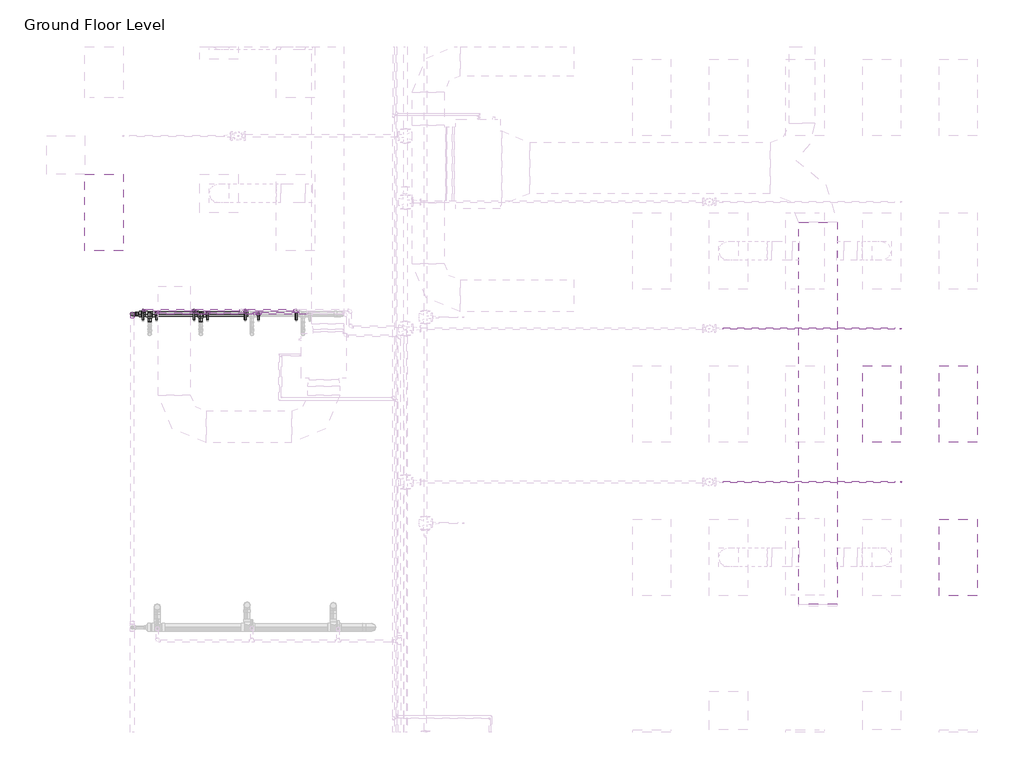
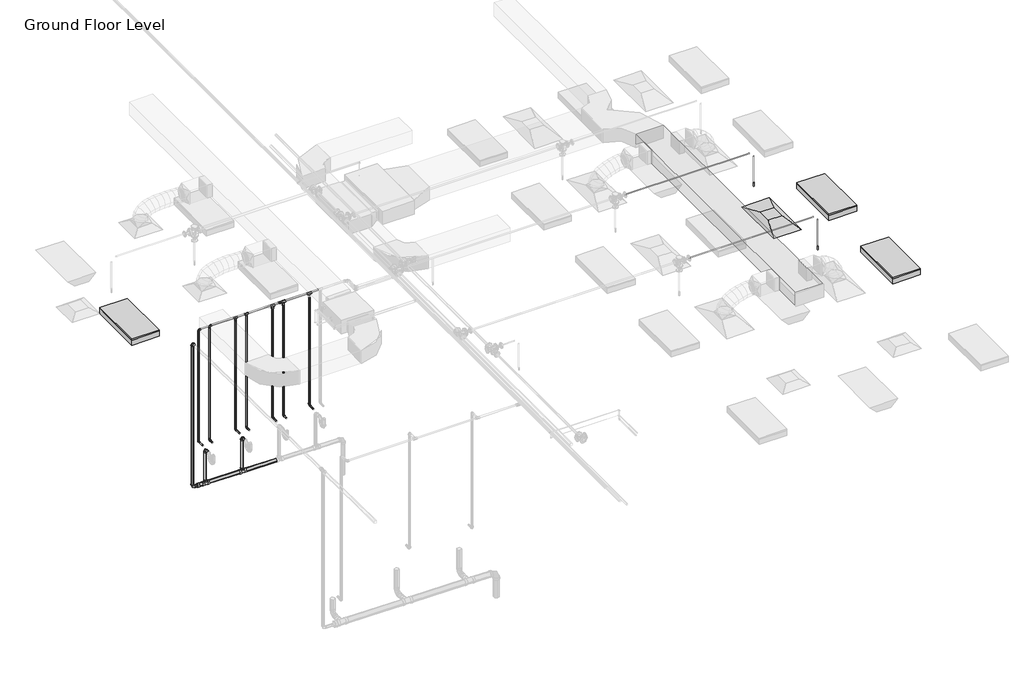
# One storey, part 24 of 75: 33 pipe segments, 24 pipe fittings, 3 light fixtures, 2 fire suppression terminals, 1 air terminal, 1 duct segment.
"""IFC4 building model written with IfcOpenShell, lengths in millimetres."""

from ifc_helpers import new_model, si_unit, point, frame, frame_2d, origin, place, context, project, spatial, polyline, circle_curve, trimmed, segment, composite_curve, outline, extrude, transform, mapped, element, save
from components import m_return_diffuser_1200x600_1200_x_600_face_300_x_300_d1983ef6, m_sprinkler_dry_pendent_hosted_15_mm_dry_pendent_9bda8e11, m_troffer_light_parabolic_rectangular1_0600x1200mm_4_lamp_86473d4a, m_bend_pvc_sch_40_dwv_standard_1e7bdcc1, m_bend_pvc_sch_40_dwv_standard_b3f66ba9, m_bend_pvc_sch_40_dwv_standard_8255d195, m_reducer_pvc_sch_40_dwv_standard_391ccf0e, m_tee_reducing_sanitary_pvc_sch_40_dwv_standard_21d2848c, standard_b266ab3f, standard_72b35c3b, standard_e954f56a, standard_636910a4

model = new_model("IFC4")

# Units and contexts
model_context = context("Model", 3, world=origin())
ifc_project = project(units=[si_unit("LENGTHUNIT", "METRE", prefix="MILLI")], contexts=[model_context])

# Site, building, storey
site = spatial("IfcSite", under=ifc_project)
building = spatial("IfcBuilding", under=site)
storey = spatial("IfcBuildingStorey", under=building, Name="Ground Floor Level", Elevation=900.0)

# Air terminal
placement = place(None, origin())
m_return_diffuser_1200x600_1200_x_600_face_300_x_300_shape = m_return_diffuser_1200x600_1200_x_600_face_300_x_300_d1983ef6(model_context)
element("IfcAirTerminal", 1, ObjectType="M_Return Diffuser 1200x600 : 1200 x 600 Face 300 x 300 Connection", at=placement, inside=storey, context=model_context, shape_type="MappedRepresentation", body=[
    mapped(m_return_diffuser_1200x600_1200_x_600_face_300_x_300_shape, transform((13143.0482736, -25264.7846466, 3650.0), x_axis=(0.0, 1.0, 0.0), y_axis=(-1.0, 0.0, 0.0), z_axis=(0.0, 0.0, 1.0))),
])

# Duct segment
element("IfcDuctSegment", 2, ObjectType="Radius Elbows / Taps", at=placement, inside=storey, context=model_context, shape_type="SweptSolid", body=[
    extrude(outline(polyline([(12447.7826463, -28403.2846466), (11847.7826463, -28403.2846466), (11847.7826463, -22416.5689179), (12447.7826463, -22416.5689179), (12447.7826463, -28403.2846466)])), frame((0.0, 0.0, 4000.0002153), z_axis=(0.0, 0.0, 1.0), x_axis=(1.0, 0.0, 0.0)), (0.0, 0.0, 1.0), 300.0),
])

# Fire suppression terminals
m_sprinkler_dry_pendent_hosted_15_mm_dry_pendent_shape = m_sprinkler_dry_pendent_hosted_15_mm_dry_pendent_9bda8e11(model_context)
element("IfcFireSuppressionTerminal", 3, ObjectType="M_Sprinkler - Dry - Pendent - Hosted : 15 mm Dry Pendent", at=placement, inside=storey, context=model_context, shape_type="MappedRepresentation", body=[
    mapped(m_sprinkler_dry_pendent_hosted_15_mm_dry_pendent_shape, transform((13443.0482736, -24083.6779349, 3650.0), x_axis=(1.0, 0.0, 0.0), y_axis=(0.0, -1.0, 0.0), z_axis=(0.0, 0.0, -1.0))),
])
element("IfcFireSuppressionTerminal", 4, ObjectType="M_Sprinkler - Dry - Pendent - Hosted : 15 mm Dry Pendent", at=placement, inside=storey, context=model_context, shape_type="MappedRepresentation", body=[
    mapped(m_sprinkler_dry_pendent_hosted_15_mm_dry_pendent_shape, transform((13443.0482736, -26484.6295433, 3650.0), x_axis=(1.0, 0.0, 0.0), y_axis=(0.0, -1.0, 0.0), z_axis=(0.0, 0.0, -1.0))),
])

# Light fixtures
m_troffer_light_parabolic_rectangular1_0600x1200mm_4_lamp_shape = m_troffer_light_parabolic_rectangular1_0600x1200mm_4_lamp_86473d4a(model_context)
element("IfcLightFixture", 5, ObjectType="M_Troffer Light - Parabolic Rectangular1 : 0600x1200mm(4 Lamp) - 277V 2", at=placement, inside=storey, context=model_context, shape_type="MappedRepresentation", body=[
    mapped(m_troffer_light_parabolic_rectangular1_0600x1200mm_4_lamp_shape, transform((903.3013074, -22246.081145, 3650.0), x_axis=(0.0, 1.0, 0.0), y_axis=(-1.0, 0.0, 0.0), z_axis=(0.0, 0.0, 1.0))),
])
element("IfcLightFixture", 6, ObjectType="M_Troffer Light - Parabolic Rectangular1 : 0600x1200mm(4 Lamp) - 277V 2", at=placement, inside=storey, context=model_context, shape_type="MappedRepresentation", body=[
    mapped(m_troffer_light_parabolic_rectangular1_0600x1200mm_4_lamp_shape, transform((14283.5823415, -25246.081145, 3650.0), x_axis=(0.0, 1.0, 0.0), y_axis=(-1.0, 0.0, 0.0), z_axis=(0.0, 0.0, 1.0))),
])
element("IfcLightFixture", 7, ObjectType="M_Troffer Light - Parabolic Rectangular1 : 0600x1200mm(4 Lamp) - 277V 2", at=placement, inside=storey, context=model_context, shape_type="MappedRepresentation", body=[
    mapped(m_troffer_light_parabolic_rectangular1_0600x1200mm_4_lamp_shape, transform((14283.5823415, -27646.081145, 3650.0), x_axis=(0.0, 1.0, 0.0), y_axis=(-1.0, 0.0, 0.0), z_axis=(0.0, 0.0, 1.0))),
])

# Pipe fittings
m_bend_pvc_sch_40_dwv_standard_shape = m_bend_pvc_sch_40_dwv_standard_1e7bdcc1(model_context)
element("IfcPipeFitting", 8, ObjectType="M_Bend - PVC - Sch 40 - DWV : Standard", at=placement, inside=storey, context=model_context, shape_type="MappedRepresentation", body=[
    mapped(m_bend_pvc_sch_40_dwv_standard_shape, transform((2478.7498, -23854.2948449, 1508.2594199), x_axis=(0.0, 0.9999500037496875, -0.00999950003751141), y_axis=(0.0, -0.00999950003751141, -0.9999500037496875), z_axis=(-1.0, 0.0, 0.0))),
])
element("IfcPipeFitting", 9, ObjectType="M_Bend - PVC - Sch 40 - DWV : Standard", at=placement, inside=storey, context=model_context, shape_type="MappedRepresentation", body=[
    mapped(m_bend_pvc_sch_40_dwv_standard_shape, transform((1404.8669708, -23854.2948449, 739.8083289), x_axis=(-0.9999500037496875, 0.0, 0.009999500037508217), y_axis=(0.009999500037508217, 0.0, 0.9999500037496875), z_axis=(0.0, 1.0, 0.0))),
])
m_bend_pvc_sch_40_dwv_standard_2_shape = m_bend_pvc_sch_40_dwv_standard_b3f66ba9(model_context)
element("IfcPipeFitting", 10, ObjectType="M_Bend - PVC - Sch 40 - DWV : Standard", at=placement, inside=storey, context=model_context, shape_type="MappedRepresentation", body=[
    mapped(m_bend_pvc_sch_40_dwv_standard_2_shape, transform((1678.7498, -23854.294392, 1508.3087469), x_axis=(0.0, 0.9999578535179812, -0.009181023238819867), y_axis=(0.0, -0.009181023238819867, -0.9999578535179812), z_axis=(-1.0, 0.0, 0.0))),
])
m_bend_pvc_sch_40_dwv_standard_3_shape = m_bend_pvc_sch_40_dwv_standard_8255d195(model_context)
element("IfcPipeFitting", 11, ObjectType="M_Bend - PVC - Sch 40 - DWV : Standard", at=placement, inside=storey, context=model_context, shape_type="MappedRepresentation", body=[
    mapped(m_bend_pvc_sch_40_dwv_standard_3_shape, transform((1404.8829692, -23854.3136394, 4037.9287036), x_axis=(0.0, 0.0, 1.0), y_axis=(0.0, -1.0, 0.0), z_axis=(1.0, 0.0, 0.0))),
])
m_reducer_pvc_sch_40_dwv_standard_shape = m_reducer_pvc_sch_40_dwv_standard_391ccf0e(model_context)
element("IfcPipeFitting", 12, ObjectType="M_Reducer - PVC - Sch 40 - DWV : Standard", at=placement, inside=storey, context=model_context, shape_type="MappedRepresentation", body=[
    mapped(m_reducer_pvc_sch_40_dwv_standard_shape, transform((1477.4242491, -23854.2948449, 739.0827561), x_axis=(0.9999500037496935, 0.0, -0.00999950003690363), y_axis=(0.0, 1.0, 0.0), z_axis=(0.00999950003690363, 0.0, 0.9999500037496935))),
])
m_tee_reducing_sanitary_pvc_sch_40_dwv_standard_shape = m_tee_reducing_sanitary_pvc_sch_40_dwv_standard_21d2848c(model_context)
element("IfcPipeFitting", 13, ObjectType="M_Tee Reducing Sanitary - PVC - Sch 40 - DWV : Standard", at=placement, inside=storey, context=model_context, shape_type="MappedRepresentation", body=[
    mapped(m_tee_reducing_sanitary_pvc_sch_40_dwv_standard_shape, transform((1678.7498, -23854.294392, 737.0632162), x_axis=(-0.9999500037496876, 0.0, 0.009999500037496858), y_axis=(-0.009999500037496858, 0.0, -0.9999500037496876), z_axis=(0.0, -1.0, 0.0))),
])
element("IfcPipeFitting", 14, ObjectType="M_Tee Reducing Sanitary - PVC - Sch 40 - DWV : Standard", at=placement, inside=storey, context=model_context, shape_type="MappedRepresentation", body=[
    mapped(m_tee_reducing_sanitary_pvc_sch_40_dwv_standard_shape, transform((2478.7498, -23854.2948449, 729.0632162), x_axis=(-0.9999500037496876, 0.0, 0.009999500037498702), y_axis=(-0.009999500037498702, 0.0, -0.9999500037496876), z_axis=(0.0, -1.0, 0.0))),
])
standard_shape = standard_b266ab3f(model_context)
element("IfcPipeFitting", 15, ObjectType="M_Elbow - CPVC - Sch 40 : Standard", at=placement, inside=storey, context=model_context, shape_type="MappedRepresentation", body=[
    mapped(standard_shape, transform((1783.0647206, -23844.7846466, 1690.0), x_axis=(0.0, 0.0, -1.0), y_axis=(0.0, -1.0, 0.0), z_axis=(-1.0, 0.0, 0.0))),
])
element("IfcPipeFitting", 16, ObjectType="M_Elbow - CPVC - Sch 40 : Standard", at=placement, inside=storey, context=model_context, shape_type="MappedRepresentation", body=[
    mapped(standard_shape, transform((2583.0647206, -23844.7846466, 1690.0), x_axis=(0.0, 0.0, -1.0), y_axis=(0.0, -1.0, 0.0), z_axis=(-1.0, 0.0, 0.0))),
])
element("IfcPipeFitting", 17, ObjectType="M_Elbow - CPVC - Sch 40 : Standard", at=placement, inside=storey, context=model_context, shape_type="MappedRepresentation", body=[
    mapped(standard_shape, transform((3383.0647206, -23844.7846466, 1690.0), x_axis=(0.0, 0.0, -1.0), y_axis=(0.0, -1.0, 0.0), z_axis=(-1.0, 0.0, 0.0))),
])
element("IfcPipeFitting", 18, ObjectType="M_Elbow - CPVC - Sch 40 : Standard", at=placement, inside=storey, context=model_context, shape_type="MappedRepresentation", body=[
    mapped(standard_shape, transform((1783.0647206, -23844.7846466, 4300.0), x_axis=(-1.0, 0.0, 0.0), y_axis=(0.0, 0.0, -1.0), z_axis=(0.0, -1.0, 0.0))),
])
element("IfcPipeFitting", 19, ObjectType="M_Elbow - CPVC - Sch 40 : Standard", at=placement, inside=storey, context=model_context, shape_type="MappedRepresentation", body=[
    mapped(standard_shape, transform((1574.4348794, -23794.921633, 1690.0), x_axis=(0.0, 1.0, 0.0), y_axis=(0.0, 0.0, 1.0), z_axis=(1.0, 0.0, 0.0))),
])
element("IfcPipeFitting", 20, ObjectType="M_Elbow - CPVC - Sch 40 : Standard", at=placement, inside=storey, context=model_context, shape_type="MappedRepresentation", body=[
    mapped(standard_shape, transform((1574.4348794, -23794.921633, 4250.0), x_axis=(0.0, 0.0, 1.0), y_axis=(1.0, 0.0, 0.0), z_axis=(0.0, 1.0, 0.0))),
])
element("IfcPipeFitting", 21, ObjectType="M_Elbow - CPVC - Sch 40 : Standard", at=placement, inside=storey, context=model_context, shape_type="MappedRepresentation", body=[
    mapped(standard_shape, transform((2374.4348794, -23794.921633, 1690.0), x_axis=(0.0, 1.0, 0.0), y_axis=(0.0, 0.0, 1.0), z_axis=(1.0, 0.0, 0.0))),
])
element("IfcPipeFitting", 22, ObjectType="M_Elbow - CPVC - Sch 40 : Standard", at=placement, inside=storey, context=model_context, shape_type="MappedRepresentation", body=[
    mapped(standard_shape, transform((3174.4348794, -23794.921633, 1690.0), x_axis=(0.0, 1.0, 0.0), y_axis=(0.0, 0.0, 1.0), z_axis=(1.0, 0.0, 0.0))),
])
element("IfcPipeFitting", 23, ObjectType="M_Elbow - CPVC - Sch 40 : Standard", at=placement, inside=storey, context=model_context, shape_type="MappedRepresentation", body=[
    mapped(standard_shape, transform((3974.4348794, -23794.921633, 1690.0), x_axis=(0.0, 1.0, 0.0), y_axis=(0.0, 0.0, 1.0), z_axis=(1.0, 0.0, 0.0))),
])
standard_2_shape = standard_72b35c3b(model_context)
element("IfcPipeFitting", 24, ObjectType="M_Tee - CPVC - Sch 40 : Standard", at=placement, inside=storey, context=model_context, shape_type="MappedRepresentation", body=[
    mapped(standard_2_shape, transform((3383.0647206, -23844.7846466, 4300.0), x_axis=(1.0, 0.0, 0.0), y_axis=(0.0, 0.0, 1.0), z_axis=(0.0, -1.0, 0.0))),
])
element("IfcPipeFitting", 25, ObjectType="M_Tee - CPVC - Sch 40 : Standard", at=placement, inside=storey, context=model_context, shape_type="MappedRepresentation", body=[
    mapped(standard_2_shape, transform((3174.4348794, -23794.921633, 4250.0), x_axis=(-1.0, 0.0, 0.0), y_axis=(0.0, 0.0, 1.0), z_axis=(0.0, 1.0, 0.0))),
])
element("IfcPipeFitting", 26, ObjectType="M_Tee - CPVC - Sch 40 : Standard", at=placement, inside=storey, context=model_context, shape_type="MappedRepresentation", body=[
    mapped(standard_2_shape, transform((3974.4348794, -23794.921633, 4250.0), x_axis=(-1.0, 0.0, 0.0), y_axis=(0.0, 0.0, 1.0), z_axis=(0.0, 1.0, 0.0))),
])
standard_3_shape = standard_e954f56a(model_context)
element("IfcPipeFitting", 27, ObjectType="M_Coupling Reducing - CPVC - Sch 40 : Standard", at=placement, inside=storey, context=model_context, shape_type="MappedRepresentation", body=[
    mapped(standard_3_shape, transform((3343.3645206, -23844.7846466, 4300.0), x_axis=(-1.0, 0.0, 0.0), y_axis=(0.0, -1.0, 0.0), z_axis=(0.0, 0.0, 1.0))),
])
element("IfcPipeFitting", 28, ObjectType="M_Coupling Reducing - CPVC - Sch 40 : Standard", at=placement, inside=storey, context=model_context, shape_type="MappedRepresentation", body=[
    mapped(standard_3_shape, transform((3383.0647206, -23844.7846466, 4260.2998), x_axis=(0.0, 0.0, -1.0), y_axis=(1.0, 0.0, 0.0), z_axis=(0.0, -1.0, 0.0))),
])
element("IfcPipeFitting", 29, ObjectType="M_Coupling Reducing - CPVC - Sch 40 : Standard", at=placement, inside=storey, context=model_context, shape_type="MappedRepresentation", body=[
    mapped(standard_3_shape, transform((3174.4348794, -23794.921633, 4210.2998), x_axis=(0.0, 0.0, -1.0), y_axis=(-1.0, 0.0, 0.0), z_axis=(0.0, 1.0, 0.0))),
])
standard_4_shape = standard_636910a4(model_context)
element("IfcPipeFitting", 30, ObjectType="M_Tee - CPVC - Sch 40 : Standard", at=placement, inside=storey, context=model_context, shape_type="MappedRepresentation", body=[
    mapped(standard_4_shape, transform((2583.0647206, -23844.7846466, 4300.0), x_axis=(1.0, 0.0, 0.0), y_axis=(0.0, 0.0, 1.0), z_axis=(0.0, -1.0, 0.0))),
])
element("IfcPipeFitting", 31, ObjectType="M_Tee - CPVC - Sch 40 : Standard", at=placement, inside=storey, context=model_context, shape_type="MappedRepresentation", body=[
    mapped(standard_4_shape, transform((2374.4348794, -23794.921633, 4250.0), x_axis=(-1.0, 0.0, 0.0), y_axis=(0.0, 0.0, 1.0), z_axis=(0.0, 1.0, 0.0))),
])

# Pipe segments
element("IfcPipeSegment", 32, ObjectType="CPVC", at=placement, inside=storey, context=model_context, shape_type="SweptSolid", body=[
    extrude(outline(composite_curve([segment(trimmed(circle_curve(frame_2d((1690.0, 3383.0647206)), 13.335), [point((1690.0, 3396.3997206))], [point((1703.335, 3383.0647206))], False, "CARTESIAN"), True, "CONTINUOUS"), segment(trimmed(circle_curve(frame_2d((1690.0, 3383.0647206)), 13.335), [point((1703.335, 3383.0647206))], [point((1690.0, 3369.7297206))], False, "CARTESIAN"), True, "CONTINUOUS"), segment(trimmed(circle_curve(frame_2d((1690.0, 3383.0647206)), 13.335), [point((1690.0, 3369.7297206))], [point((1676.665, 3383.0647206))], False, "CARTESIAN"), True, "CONTINUOUS"), segment(trimmed(circle_curve(frame_2d((1690.0, 3383.0647206)), 13.335), [point((1676.665, 3383.0647206))], [point((1690.0, 3396.3997206))], False, "CARTESIAN"), True, "CONTINUOUS")], self_intersect=False)), frame((0.0, -23944.7846466, 0.0), z_axis=(0.0, 1.0, 0.0), x_axis=(0.0, 0.0, 1.0)), (0.0, 0.0, 1.0), 64.67495),
])
element("IfcPipeSegment", 33, ObjectType="CPVC", at=placement, inside=storey, context=model_context, shape_type="SweptSolid", body=[
    extrude(outline(composite_curve([segment(trimmed(circle_curve(frame_2d((1690.0, 2583.0647206)), 13.335), [point((1690.0, 2596.3997206))], [point((1703.335, 2583.0647206))], False, "CARTESIAN"), True, "CONTINUOUS"), segment(trimmed(circle_curve(frame_2d((1690.0, 2583.0647206)), 13.335), [point((1703.335, 2583.0647206))], [point((1690.0, 2569.7297206))], False, "CARTESIAN"), True, "CONTINUOUS"), segment(trimmed(circle_curve(frame_2d((1690.0, 2583.0647206)), 13.335), [point((1690.0, 2569.7297206))], [point((1676.665, 2583.0647206))], False, "CARTESIAN"), True, "CONTINUOUS"), segment(trimmed(circle_curve(frame_2d((1690.0, 2583.0647206)), 13.335), [point((1676.665, 2583.0647206))], [point((1690.0, 2596.3997206))], False, "CARTESIAN"), True, "CONTINUOUS")], self_intersect=False)), frame((0.0, -23944.7846466, 0.0), z_axis=(0.0, 1.0, 0.0), x_axis=(0.0, 0.0, 1.0)), (0.0, 0.0, 1.0), 64.67495),
])
element("IfcPipeSegment", 34, ObjectType="CPVC", at=placement, inside=storey, context=model_context, shape_type="SweptSolid", body=[
    extrude(outline(composite_curve([segment(trimmed(circle_curve(frame_2d((1690.0, 1783.0647206)), 13.335), [point((1690.0, 1796.3997206))], [point((1703.335, 1783.0647206))], False, "CARTESIAN"), True, "CONTINUOUS"), segment(trimmed(circle_curve(frame_2d((1690.0, 1783.0647206)), 13.335), [point((1703.335, 1783.0647206))], [point((1690.0, 1769.7297206))], False, "CARTESIAN"), True, "CONTINUOUS"), segment(trimmed(circle_curve(frame_2d((1690.0, 1783.0647206)), 13.335), [point((1690.0, 1769.7297206))], [point((1676.665, 1783.0647206))], False, "CARTESIAN"), True, "CONTINUOUS"), segment(trimmed(circle_curve(frame_2d((1690.0, 1783.0647206)), 13.335), [point((1676.665, 1783.0647206))], [point((1690.0, 1796.3997206))], False, "CARTESIAN"), True, "CONTINUOUS")], self_intersect=False)), frame((0.0, -23944.7846466, 0.0), z_axis=(0.0, 1.0, 0.0), x_axis=(0.0, 0.0, 1.0)), (0.0, 0.0, 1.0), 64.67495),
])
element("IfcPipeSegment", 35, ObjectType="CPVC", at=placement, inside=storey, context=model_context, shape_type="SweptSolid", body=[
    extrude(outline(composite_curve([segment(trimmed(circle_curve(frame_2d((1783.0647206, -23844.7846466)), 13.335), [point((1796.3997206, -23844.7846466))], [point((1783.0647206, -23858.1196466))], False, "CARTESIAN"), True, "CONTINUOUS"), segment(trimmed(circle_curve(frame_2d((1783.0647206, -23844.7846466)), 13.335), [point((1783.0647206, -23858.1196466))], [point((1769.7297206, -23844.7846466))], False, "CARTESIAN"), True, "CONTINUOUS"), segment(trimmed(circle_curve(frame_2d((1783.0647206, -23844.7846466)), 13.335), [point((1769.7297206, -23844.7846466))], [point((1783.0647206, -23831.4496466))], False, "CARTESIAN"), True, "CONTINUOUS"), segment(trimmed(circle_curve(frame_2d((1783.0647206, -23844.7846466)), 13.335), [point((1783.0647206, -23831.4496466))], [point((1796.3997206, -23844.7846466))], False, "CARTESIAN"), True, "CONTINUOUS")], self_intersect=False)), frame((0.0, 0.0, 1725.32505), z_axis=(0.0, 0.0, 1.0), x_axis=(1.0, 0.0, 0.0)), (0.0, 0.0, 1.0), 2539.3499),
])
element("IfcPipeSegment", 36, ObjectType="CPVC", at=placement, inside=storey, context=model_context, shape_type="SweptSolid", body=[
    extrude(outline(composite_curve([segment(trimmed(circle_curve(frame_2d((-23844.7846466, 4300.0)), 13.335), [point((-23831.4496466, 4300.0))], [point((-23844.7846466, 4286.665))], False, "CARTESIAN"), True, "CONTINUOUS"), segment(trimmed(circle_curve(frame_2d((-23844.7846466, 4300.0)), 13.335), [point((-23844.7846466, 4286.665))], [point((-23858.1196466, 4300.0))], False, "CARTESIAN"), True, "CONTINUOUS"), segment(trimmed(circle_curve(frame_2d((-23844.7846466, 4300.0)), 13.335), [point((-23858.1196466, 4300.0))], [point((-23844.7846466, 4313.335))], False, "CARTESIAN"), True, "CONTINUOUS"), segment(trimmed(circle_curve(frame_2d((-23844.7846466, 4300.0)), 13.335), [point((-23844.7846466, 4313.335))], [point((-23831.4496466, 4300.0))], False, "CARTESIAN"), True, "CONTINUOUS")], self_intersect=False)), frame((1818.3897706, 0.0, 0.0), z_axis=(1.0, 0.0, 0.0), x_axis=(0.0, 1.0, 0.0)), (0.0, 0.0, 1.0), 732.13755),
])
element("IfcPipeSegment", 37, ObjectType="CPVC", at=placement, inside=storey, context=model_context, shape_type="SweptSolid", body=[
    extrude(outline(composite_curve([segment(trimmed(circle_curve(frame_2d((2583.0647206, -23844.7846466)), 13.335), [point((2596.3997206, -23844.7846466))], [point((2583.0647206, -23858.1196466))], False, "CARTESIAN"), True, "CONTINUOUS"), segment(trimmed(circle_curve(frame_2d((2583.0647206, -23844.7846466)), 13.335), [point((2583.0647206, -23858.1196466))], [point((2569.7297206, -23844.7846466))], False, "CARTESIAN"), True, "CONTINUOUS"), segment(trimmed(circle_curve(frame_2d((2583.0647206, -23844.7846466)), 13.335), [point((2569.7297206, -23844.7846466))], [point((2583.0647206, -23831.4496466))], False, "CARTESIAN"), True, "CONTINUOUS"), segment(trimmed(circle_curve(frame_2d((2583.0647206, -23844.7846466)), 13.335), [point((2583.0647206, -23831.4496466))], [point((2596.3997206, -23844.7846466))], False, "CARTESIAN"), True, "CONTINUOUS")], self_intersect=False)), frame((0.0, 0.0, 1725.32505), z_axis=(0.0, 0.0, 1.0), x_axis=(1.0, 0.0, 0.0)), (0.0, 0.0, 1.0), 2542.13755),
])
element("IfcPipeSegment", 38, ObjectType="CPVC", at=placement, inside=storey, context=model_context, shape_type="SweptSolid", body=[
    extrude(outline(composite_curve([segment(trimmed(circle_curve(frame_2d((-23844.7846466, 4300.0)), 13.335), [point((-23831.4496466, 4300.0))], [point((-23844.7846466, 4286.665))], False, "CARTESIAN"), True, "CONTINUOUS"), segment(trimmed(circle_curve(frame_2d((-23844.7846466, 4300.0)), 13.335), [point((-23844.7846466, 4286.665))], [point((-23858.1196466, 4300.0))], False, "CARTESIAN"), True, "CONTINUOUS"), segment(trimmed(circle_curve(frame_2d((-23844.7846466, 4300.0)), 13.335), [point((-23858.1196466, 4300.0))], [point((-23844.7846466, 4313.335))], False, "CARTESIAN"), True, "CONTINUOUS"), segment(trimmed(circle_curve(frame_2d((-23844.7846466, 4300.0)), 13.335), [point((-23844.7846466, 4313.335))], [point((-23831.4496466, 4300.0))], False, "CARTESIAN"), True, "CONTINUOUS")], self_intersect=False)), frame((2615.6021206, 0.0, 0.0), z_axis=(1.0, 0.0, 0.0), x_axis=(0.0, 1.0, 0.0)), (0.0, 0.0, 1.0), 670.6124),
])
element("IfcPipeSegment", 39, ObjectType="CPVC", at=placement, inside=storey, context=model_context, shape_type="SweptSolid", body=[
    extrude(outline(composite_curve([segment(trimmed(circle_curve(frame_2d((3383.0647206, -23844.7846466)), 13.335), [point((3396.3997206, -23844.7846466))], [point((3383.0647206, -23858.1196466))], False, "CARTESIAN"), True, "CONTINUOUS"), segment(trimmed(circle_curve(frame_2d((3383.0647206, -23844.7846466)), 13.335), [point((3383.0647206, -23858.1196466))], [point((3369.7297206, -23844.7846466))], False, "CARTESIAN"), True, "CONTINUOUS"), segment(trimmed(circle_curve(frame_2d((3383.0647206, -23844.7846466)), 13.335), [point((3369.7297206, -23844.7846466))], [point((3383.0647206, -23831.4496466))], False, "CARTESIAN"), True, "CONTINUOUS"), segment(trimmed(circle_curve(frame_2d((3383.0647206, -23844.7846466)), 13.335), [point((3383.0647206, -23831.4496466))], [point((3396.3997206, -23844.7846466))], False, "CARTESIAN"), True, "CONTINUOUS")], self_intersect=False)), frame((0.0, 0.0, 1725.32505), z_axis=(0.0, 0.0, 1.0), x_axis=(1.0, 0.0, 0.0)), (0.0, 0.0, 1.0), 2477.82475),
])
element("IfcPipeSegment", 40, ObjectType="CPVC", at=placement, inside=storey, context=model_context, shape_type="SweptSolid", body=[
    extrude(outline(composite_curve([segment(trimmed(circle_curve(frame_2d((-23844.7846466, 4300.0)), 16.7005), [point((-23828.0841466, 4300.0))], [point((-23844.7846466, 4283.2995))], False, "CARTESIAN"), True, "CONTINUOUS"), segment(trimmed(circle_curve(frame_2d((-23844.7846466, 4300.0)), 16.7005), [point((-23844.7846466, 4283.2995))], [point((-23861.4851466, 4300.0))], False, "CARTESIAN"), True, "CONTINUOUS"), segment(trimmed(circle_curve(frame_2d((-23844.7846466, 4300.0)), 16.7005), [point((-23861.4851466, 4300.0))], [point((-23844.7846466, 4316.7005))], False, "CARTESIAN"), True, "CONTINUOUS"), segment(trimmed(circle_curve(frame_2d((-23844.7846466, 4300.0)), 16.7005), [point((-23844.7846466, 4316.7005))], [point((-23828.0841466, 4300.0))], False, "CARTESIAN"), True, "CONTINUOUS")], self_intersect=False)), frame((3422.7649206, 0.0, 0.0), z_axis=(1.0, 0.0, 0.0), x_axis=(0.0, 1.0, 0.0)), (0.0, 0.0, 1.0), 720.5996),
])
element("IfcPipeSegment", 41, ObjectType="CPVC", at=placement, inside=storey, context=model_context, shape_type="SweptSolid", body=[
    extrude(outline(composite_curve([segment(trimmed(circle_curve(frame_2d((1690.0, 1574.4348794)), 13.335), [point((1690.0, 1587.7698794))], [point((1703.335, 1574.4348794))], False, "CARTESIAN"), True, "CONTINUOUS"), segment(trimmed(circle_curve(frame_2d((1690.0, 1574.4348794)), 13.335), [point((1703.335, 1574.4348794))], [point((1690.0, 1561.0998794))], False, "CARTESIAN"), True, "CONTINUOUS"), segment(trimmed(circle_curve(frame_2d((1690.0, 1574.4348794)), 13.335), [point((1690.0, 1561.0998794))], [point((1676.665, 1574.4348794))], False, "CARTESIAN"), True, "CONTINUOUS"), segment(trimmed(circle_curve(frame_2d((1690.0, 1574.4348794)), 13.335), [point((1676.665, 1574.4348794))], [point((1690.0, 1587.7698794))], False, "CARTESIAN"), True, "CONTINUOUS")], self_intersect=False)), frame((0.0, -23944.7846466, 0.0), z_axis=(0.0, 1.0, 0.0), x_axis=(0.0, 0.0, 1.0)), (0.0, 0.0, 1.0), 114.5379636),
])
element("IfcPipeSegment", 42, ObjectType="CPVC", at=placement, inside=storey, context=model_context, shape_type="SweptSolid", body=[
    extrude(outline(composite_curve([segment(trimmed(circle_curve(frame_2d((1574.4348794, -23794.921633)), 13.335), [point((1561.0998794, -23794.921633))], [point((1574.4348794, -23781.586633))], False, "CARTESIAN"), True, "CONTINUOUS"), segment(trimmed(circle_curve(frame_2d((1574.4348794, -23794.921633)), 13.335), [point((1574.4348794, -23781.586633))], [point((1587.7698794, -23794.921633))], False, "CARTESIAN"), True, "CONTINUOUS"), segment(trimmed(circle_curve(frame_2d((1574.4348794, -23794.921633)), 13.335), [point((1587.7698794, -23794.921633))], [point((1574.4348794, -23808.256633))], False, "CARTESIAN"), True, "CONTINUOUS"), segment(trimmed(circle_curve(frame_2d((1574.4348794, -23794.921633)), 13.335), [point((1574.4348794, -23808.256633))], [point((1561.0998794, -23794.921633))], False, "CARTESIAN"), True, "CONTINUOUS")], self_intersect=False)), frame((0.0, 0.0, 1725.32505), z_axis=(0.0, 0.0, 1.0), x_axis=(1.0, 0.0, 0.0)), (0.0, 0.0, 1.0), 2489.3499),
])
element("IfcPipeSegment", 43, ObjectType="CPVC", at=placement, inside=storey, context=model_context, shape_type="SweptSolid", body=[
    extrude(outline(composite_curve([segment(trimmed(circle_curve(frame_2d((1690.0, 2374.4348794)), 13.335), [point((1690.0, 2387.7698794))], [point((1703.335, 2374.4348794))], False, "CARTESIAN"), True, "CONTINUOUS"), segment(trimmed(circle_curve(frame_2d((1690.0, 2374.4348794)), 13.335), [point((1703.335, 2374.4348794))], [point((1690.0, 2361.0998794))], False, "CARTESIAN"), True, "CONTINUOUS"), segment(trimmed(circle_curve(frame_2d((1690.0, 2374.4348794)), 13.335), [point((1690.0, 2361.0998794))], [point((1676.665, 2374.4348794))], False, "CARTESIAN"), True, "CONTINUOUS"), segment(trimmed(circle_curve(frame_2d((1690.0, 2374.4348794)), 13.335), [point((1676.665, 2374.4348794))], [point((1690.0, 2387.7698794))], False, "CARTESIAN"), True, "CONTINUOUS")], self_intersect=False)), frame((0.0, -23944.7846466, 0.0), z_axis=(0.0, 1.0, 0.0), x_axis=(0.0, 0.0, 1.0)), (0.0, 0.0, 1.0), 114.5379636),
])
element("IfcPipeSegment", 44, ObjectType="CPVC", at=placement, inside=storey, context=model_context, shape_type="SweptSolid", body=[
    extrude(outline(composite_curve([segment(trimmed(circle_curve(frame_2d((2374.4348794, -23794.921633)), 13.335), [point((2361.0998794, -23794.921633))], [point((2374.4348794, -23781.586633))], False, "CARTESIAN"), True, "CONTINUOUS"), segment(trimmed(circle_curve(frame_2d((2374.4348794, -23794.921633)), 13.335), [point((2374.4348794, -23781.586633))], [point((2387.7698794, -23794.921633))], False, "CARTESIAN"), True, "CONTINUOUS"), segment(trimmed(circle_curve(frame_2d((2374.4348794, -23794.921633)), 13.335), [point((2387.7698794, -23794.921633))], [point((2374.4348794, -23808.256633))], False, "CARTESIAN"), True, "CONTINUOUS"), segment(trimmed(circle_curve(frame_2d((2374.4348794, -23794.921633)), 13.335), [point((2374.4348794, -23808.256633))], [point((2361.0998794, -23794.921633))], False, "CARTESIAN"), True, "CONTINUOUS")], self_intersect=False)), frame((0.0, 0.0, 1725.32505), z_axis=(0.0, 0.0, 1.0), x_axis=(1.0, 0.0, 0.0)), (0.0, 0.0, 1.0), 2492.13755),
])
element("IfcPipeSegment", 45, ObjectType="CPVC", at=placement, inside=storey, context=model_context, shape_type="SweptSolid", body=[
    extrude(outline(composite_curve([segment(trimmed(circle_curve(frame_2d((-23794.921633, 4250.0)), 13.335), [point((-23808.256633, 4250.0))], [point((-23794.921633, 4263.335))], False, "CARTESIAN"), True, "CONTINUOUS"), segment(trimmed(circle_curve(frame_2d((-23794.921633, 4250.0)), 13.335), [point((-23794.921633, 4263.335))], [point((-23781.586633, 4250.0))], False, "CARTESIAN"), True, "CONTINUOUS"), segment(trimmed(circle_curve(frame_2d((-23794.921633, 4250.0)), 13.335), [point((-23781.586633, 4250.0))], [point((-23794.921633, 4236.665))], False, "CARTESIAN"), True, "CONTINUOUS"), segment(trimmed(circle_curve(frame_2d((-23794.921633, 4250.0)), 13.335), [point((-23794.921633, 4236.665))], [point((-23808.256633, 4250.0))], False, "CARTESIAN"), True, "CONTINUOUS")], self_intersect=False)), frame((1609.7599294, 0.0, 0.0), z_axis=(1.0, 0.0, 0.0), x_axis=(0.0, 1.0, 0.0)), (0.0, 0.0, 1.0), 732.13755),
])
element("IfcPipeSegment", 46, ObjectType="CPVC", at=placement, inside=storey, context=model_context, shape_type="SweptSolid", body=[
    extrude(outline(composite_curve([segment(trimmed(circle_curve(frame_2d((1690.0, 3174.4348794)), 13.335), [point((1690.0, 3187.7698794))], [point((1703.335, 3174.4348794))], False, "CARTESIAN"), True, "CONTINUOUS"), segment(trimmed(circle_curve(frame_2d((1690.0, 3174.4348794)), 13.335), [point((1703.335, 3174.4348794))], [point((1690.0, 3161.0998794))], False, "CARTESIAN"), True, "CONTINUOUS"), segment(trimmed(circle_curve(frame_2d((1690.0, 3174.4348794)), 13.335), [point((1690.0, 3161.0998794))], [point((1676.665, 3174.4348794))], False, "CARTESIAN"), True, "CONTINUOUS"), segment(trimmed(circle_curve(frame_2d((1690.0, 3174.4348794)), 13.335), [point((1676.665, 3174.4348794))], [point((1690.0, 3187.7698794))], False, "CARTESIAN"), True, "CONTINUOUS")], self_intersect=False)), frame((0.0, -23944.7846466, 0.0), z_axis=(0.0, 1.0, 0.0), x_axis=(0.0, 0.0, 1.0)), (0.0, 0.0, 1.0), 114.5379636),
])
element("IfcPipeSegment", 47, ObjectType="CPVC", at=placement, inside=storey, context=model_context, shape_type="SweptSolid", body=[
    extrude(outline(composite_curve([segment(trimmed(circle_curve(frame_2d((3174.4348794, -23794.921633)), 13.335), [point((3161.0998794, -23794.921633))], [point((3174.4348794, -23781.586633))], False, "CARTESIAN"), True, "CONTINUOUS"), segment(trimmed(circle_curve(frame_2d((3174.4348794, -23794.921633)), 13.335), [point((3174.4348794, -23781.586633))], [point((3187.7698794, -23794.921633))], False, "CARTESIAN"), True, "CONTINUOUS"), segment(trimmed(circle_curve(frame_2d((3174.4348794, -23794.921633)), 13.335), [point((3187.7698794, -23794.921633))], [point((3174.4348794, -23808.256633))], False, "CARTESIAN"), True, "CONTINUOUS"), segment(trimmed(circle_curve(frame_2d((3174.4348794, -23794.921633)), 13.335), [point((3174.4348794, -23808.256633))], [point((3161.0998794, -23794.921633))], False, "CARTESIAN"), True, "CONTINUOUS")], self_intersect=False)), frame((0.0, 0.0, 1725.32505), z_axis=(0.0, 0.0, 1.0), x_axis=(1.0, 0.0, 0.0)), (0.0, 0.0, 1.0), 2427.82475),
])
element("IfcPipeSegment", 48, ObjectType="CPVC", at=placement, inside=storey, context=model_context, shape_type="SweptSolid", body=[
    extrude(outline(composite_curve([segment(trimmed(circle_curve(frame_2d((-23794.921633, 4250.0)), 13.335), [point((-23808.256633, 4250.0))], [point((-23794.921633, 4263.335))], False, "CARTESIAN"), True, "CONTINUOUS"), segment(trimmed(circle_curve(frame_2d((-23794.921633, 4250.0)), 13.335), [point((-23794.921633, 4263.335))], [point((-23781.586633, 4250.0))], False, "CARTESIAN"), True, "CONTINUOUS"), segment(trimmed(circle_curve(frame_2d((-23794.921633, 4250.0)), 13.335), [point((-23781.586633, 4250.0))], [point((-23794.921633, 4236.665))], False, "CARTESIAN"), True, "CONTINUOUS"), segment(trimmed(circle_curve(frame_2d((-23794.921633, 4250.0)), 13.335), [point((-23794.921633, 4236.665))], [point((-23808.256633, 4250.0))], False, "CARTESIAN"), True, "CONTINUOUS")], self_intersect=False)), frame((2406.9722794, 0.0, 0.0), z_axis=(1.0, 0.0, 0.0), x_axis=(0.0, 1.0, 0.0)), (0.0, 0.0, 1.0), 670.6124),
])
element("IfcPipeSegment", 49, ObjectType="CPVC", at=placement, inside=storey, context=model_context, shape_type="SweptSolid", body=[
    extrude(outline(composite_curve([segment(trimmed(circle_curve(frame_2d((1690.0, 3974.4348794)), 13.335), [point((1690.0, 3987.7698794))], [point((1703.335, 3974.4348794))], False, "CARTESIAN"), True, "CONTINUOUS"), segment(trimmed(circle_curve(frame_2d((1690.0, 3974.4348794)), 13.335), [point((1703.335, 3974.4348794))], [point((1690.0, 3961.0998794))], False, "CARTESIAN"), True, "CONTINUOUS"), segment(trimmed(circle_curve(frame_2d((1690.0, 3974.4348794)), 13.335), [point((1690.0, 3961.0998794))], [point((1676.665, 3974.4348794))], False, "CARTESIAN"), True, "CONTINUOUS"), segment(trimmed(circle_curve(frame_2d((1690.0, 3974.4348794)), 13.335), [point((1676.665, 3974.4348794))], [point((1690.0, 3987.7698794))], False, "CARTESIAN"), True, "CONTINUOUS")], self_intersect=False)), frame((0.0, -23944.7846466, 0.0), z_axis=(0.0, 1.0, 0.0), x_axis=(0.0, 0.0, 1.0)), (0.0, 0.0, 1.0), 114.5379636),
])
element("IfcPipeSegment", 50, ObjectType="CPVC", at=placement, inside=storey, context=model_context, shape_type="SweptSolid", body=[
    extrude(outline(composite_curve([segment(trimmed(circle_curve(frame_2d((3974.4348794, -23794.921633)), 13.335), [point((3961.0998794, -23794.921633))], [point((3974.4348794, -23781.586633))], False, "CARTESIAN"), True, "CONTINUOUS"), segment(trimmed(circle_curve(frame_2d((3974.4348794, -23794.921633)), 13.335), [point((3974.4348794, -23781.586633))], [point((3987.7698794, -23794.921633))], False, "CARTESIAN"), True, "CONTINUOUS"), segment(trimmed(circle_curve(frame_2d((3974.4348794, -23794.921633)), 13.335), [point((3987.7698794, -23794.921633))], [point((3974.4348794, -23808.256633))], False, "CARTESIAN"), True, "CONTINUOUS"), segment(trimmed(circle_curve(frame_2d((3974.4348794, -23794.921633)), 13.335), [point((3974.4348794, -23808.256633))], [point((3961.0998794, -23794.921633))], False, "CARTESIAN"), True, "CONTINUOUS")], self_intersect=False)), frame((0.0, 0.0, 1725.32505), z_axis=(0.0, 0.0, 1.0), x_axis=(1.0, 0.0, 0.0)), (0.0, 0.0, 1.0), 2427.82475),
])
element("IfcPipeSegment", 51, ObjectType="CPVC", at=placement, inside=storey, context=model_context, shape_type="SweptSolid", body=[
    extrude(outline(composite_curve([segment(trimmed(circle_curve(frame_2d((-23794.921633, 4250.0)), 16.7005), [point((-23811.622133, 4250.0))], [point((-23794.921633, 4266.7005))], False, "CARTESIAN"), True, "CONTINUOUS"), segment(trimmed(circle_curve(frame_2d((-23794.921633, 4250.0)), 16.7005), [point((-23794.921633, 4266.7005))], [point((-23778.221133, 4250.0))], False, "CARTESIAN"), True, "CONTINUOUS"), segment(trimmed(circle_curve(frame_2d((-23794.921633, 4250.0)), 16.7005), [point((-23778.221133, 4250.0))], [point((-23794.921633, 4233.2995))], False, "CARTESIAN"), True, "CONTINUOUS"), segment(trimmed(circle_curve(frame_2d((-23794.921633, 4250.0)), 16.7005), [point((-23794.921633, 4233.2995))], [point((-23811.622133, 4250.0))], False, "CARTESIAN"), True, "CONTINUOUS")], self_intersect=False)), frame((3214.1350794, 0.0, 0.0), z_axis=(1.0, 0.0, 0.0), x_axis=(0.0, 1.0, 0.0)), (0.0, 0.0, 1.0), 720.5996),
])
element("IfcPipeSegment", 52, ObjectType="PVC - DWV", at=placement, inside=storey, context=model_context, shape_type="SweptSolid", body=[
    extrude(outline(composite_curve([segment(trimmed(circle_curve(frame_2d((0.0, -24.13)), 24.13), [point((24.13, -24.13))], [point((0.0, -48.26))], False, "CARTESIAN"), True, "CONTINUOUS"), segment(trimmed(circle_curve(frame_2d((0.0, -24.13)), 24.13), [point((0.0, -48.26))], [point((-24.13, -24.13))], False, "CARTESIAN"), True, "CONTINUOUS"), segment(trimmed(circle_curve(frame_2d((0.0, -24.13)), 24.13), [point((-24.13, -24.13))], [point((0.0, 0.0))], False, "CARTESIAN"), True, "CONTINUOUS"), segment(trimmed(circle_curve(frame_2d((0.0, -24.13)), 24.13), [point((0.0, 0.0))], [point((24.13, -24.13))], False, "CARTESIAN"), True, "CONTINUOUS")], self_intersect=False)), frame((1678.7498, -23915.9700451, 1533.0060334), z_axis=(0.0, -0.9999578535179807, 0.009181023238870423), x_axis=(1.0, 0.0, 0.0)), (0.0, 0.0, 1.0), 60.2666161),
])
element("IfcPipeSegment", 53, ObjectType="PVC - DWV", at=placement, inside=storey, context=model_context, shape_type="SweptSolid", body=[
    extrude(outline(composite_curve([segment(trimmed(circle_curve(frame_2d((1678.7498, -23854.294392)), 24.13), [point((1654.6198, -23854.294392))], [point((1678.7498, -23830.164392))], False, "CARTESIAN"), True, "CONTINUOUS"), segment(trimmed(circle_curve(frame_2d((1678.7498, -23854.294392)), 24.13), [point((1678.7498, -23830.164392))], [point((1702.8798, -23854.294392))], False, "CARTESIAN"), True, "CONTINUOUS"), segment(trimmed(circle_curve(frame_2d((1678.7498, -23854.294392)), 24.13), [point((1702.8798, -23854.294392))], [point((1678.7498, -23878.424392))], False, "CARTESIAN"), True, "CONTINUOUS"), segment(trimmed(circle_curve(frame_2d((1678.7498, -23854.294392)), 24.13), [point((1678.7498, -23878.424392))], [point((1654.6198, -23854.294392))], False, "CARTESIAN"), True, "CONTINUOUS")], self_intersect=False)), frame((0.0, 0.0, 817.9106725), z_axis=(0.0, 0.0, 1.0), x_axis=(1.0, 0.0, 0.0)), (0.0, 0.0, 1.0), 628.4982744),
])
element("IfcPipeSegment", 54, ObjectType="PVC - DWV", at=placement, inside=storey, context=model_context, shape_type="SweptSolid", body=[
    extrude(outline(composite_curve([segment(trimmed(circle_curve(frame_2d((0.0, -24.13)), 24.13), [point((24.13, -24.13))], [point((0.0, -48.26))], False, "CARTESIAN"), True, "CONTINUOUS"), segment(trimmed(circle_curve(frame_2d((0.0, -24.13)), 24.13), [point((0.0, -48.26))], [point((-24.13, -24.13))], False, "CARTESIAN"), True, "CONTINUOUS"), segment(trimmed(circle_curve(frame_2d((0.0, -24.13)), 24.13), [point((-24.13, -24.13))], [point((0.0, 0.0))], False, "CARTESIAN"), True, "CONTINUOUS"), segment(trimmed(circle_curve(frame_2d((0.0, -24.13)), 24.13), [point((0.0, 0.0))], [point((24.13, -24.13))], False, "CARTESIAN"), True, "CONTINUOUS")], self_intersect=False)), frame((2478.7498, -23915.9502622, 1533.0071805), z_axis=(0.0, -0.9999500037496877, 0.009999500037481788), x_axis=(1.0, 0.0, 0.0)), (0.0, 0.0, 1.0), 60.2666156),
])
element("IfcPipeSegment", 55, ObjectType="PVC - DWV", at=placement, inside=storey, context=model_context, shape_type="SweptSolid", body=[
    extrude(outline(composite_curve([segment(trimmed(circle_curve(frame_2d((2478.7498, -23854.2948449)), 24.13), [point((2454.6198, -23854.2948449))], [point((2478.7498, -23830.1648449))], False, "CARTESIAN"), True, "CONTINUOUS"), segment(trimmed(circle_curve(frame_2d((2478.7498, -23854.2948449)), 24.13), [point((2478.7498, -23830.1648449))], [point((2502.8798, -23854.2948449))], False, "CARTESIAN"), True, "CONTINUOUS"), segment(trimmed(circle_curve(frame_2d((2478.7498, -23854.2948449)), 24.13), [point((2502.8798, -23854.2948449))], [point((2478.7498, -23878.4248449))], False, "CARTESIAN"), True, "CONTINUOUS"), segment(trimmed(circle_curve(frame_2d((2478.7498, -23854.2948449)), 24.13), [point((2478.7498, -23878.4248449))], [point((2454.6198, -23854.2948449))], False, "CARTESIAN"), True, "CONTINUOUS")], self_intersect=False)), frame((0.0, 0.0, 809.9106725), z_axis=(0.0, 0.0, 1.0), x_axis=(1.0, 0.0, 0.0)), (0.0, 0.0, 1.0), 636.4489474),
])
element("IfcPipeSegment", 56, ObjectType="PVC - DWV", at=placement, inside=storey, context=model_context, shape_type="SweptSolid", body=[
    extrude(outline(composite_curve([segment(trimmed(circle_curve(frame_2d((-1e-07, -36.5125)), 36.5125), [point((-0.0025002, -73.0249999))], [point((-36.5125, -36.5099999))], False, "CARTESIAN"), True, "CONTINUOUS"), segment(trimmed(circle_curve(frame_2d((-1e-07, -36.5125)), 36.5125), [point((-36.5125, -36.5099999))], [point((0.0025, -1e-07))], False, "CARTESIAN"), True, "CONTINUOUS"), segment(trimmed(circle_curve(frame_2d((-1e-07, -36.5125)), 36.5125), [point((0.0025, -1e-07))], [point((36.5124998, -36.5150001))], False, "CARTESIAN"), True, "CONTINUOUS"), segment(trimmed(circle_curve(frame_2d((-1e-07, -36.5125)), 36.5125), [point((36.5124998, -36.5150001))], [point((-0.0025002, -73.0249999))], False, "CARTESIAN"), True, "CONTINUOUS")], self_intersect=False)), frame((2419.2670308, -23817.782345, 729.655544), z_axis=(-0.9999500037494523, 6.846526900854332e-07, 0.009999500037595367), x_axis=(0.009999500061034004, 6.846526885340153e-05, 0.9999500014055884)), (0.0, 0.0, 1.0), 661.4911369),
])
element("IfcPipeSegment", 57, ObjectType="PVC - DWV", at=placement, inside=storey, context=model_context, shape_type="SweptSolid", body=[
    extrude(outline(composite_curve([segment(trimmed(circle_curve(frame_2d((0.0, -36.5125)), 36.5125), [point((0.0025001, -73.0249999))], [point((-36.5124999, -36.5150001))], False, "CARTESIAN"), True, "CONTINUOUS"), segment(trimmed(circle_curve(frame_2d((0.0, -36.5125)), 36.5125), [point((-36.5124999, -36.5150001))], [point((-0.0025001, -1e-07))], False, "CARTESIAN"), True, "CONTINUOUS"), segment(trimmed(circle_curve(frame_2d((0.0, -36.5125)), 36.5125), [point((-0.0025001, -1e-07))], [point((36.5124999, -36.5099999))], False, "CARTESIAN"), True, "CONTINUOUS"), segment(trimmed(circle_curve(frame_2d((0.0, -36.5125)), 36.5125), [point((36.5124999, -36.5099999))], [point((0.0025001, -73.0249999))], False, "CARTESIAN"), True, "CONTINUOUS")], self_intersect=False)), frame((3219.2670308, -23817.7818921, 721.6605439), z_axis=(-0.9999500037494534, -6.846526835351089e-07, 0.009999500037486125), x_axis=(0.009999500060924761, -6.846526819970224e-05, 0.9999500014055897)), (0.0, 0.0, 1.0), 661.4911369),
])
element("IfcPipeSegment", 58, ObjectType="PVC - DWV", at=placement, inside=storey, context=model_context, shape_type="SweptSolid", body=[
    extrude(outline(composite_curve([segment(trimmed(circle_curve(frame_2d((0.0, 36.5125001)), 36.5125), [point((-0.022041, 73.0249934))], [point((36.5124934, 36.534541))], False, "CARTESIAN"), True, "CONTINUOUS"), segment(trimmed(circle_curve(frame_2d((0.0, 36.5125001)), 36.5125), [point((36.5124934, 36.534541))], [point((0.022041, 6.7e-06))], False, "CARTESIAN"), True, "CONTINUOUS"), segment(trimmed(circle_curve(frame_2d((0.0, 36.5125001)), 36.5125), [point((0.022041, 6.7e-06))], [point((-36.5124933, 36.490459))], False, "CARTESIAN"), True, "CONTINUOUS"), segment(trimmed(circle_curve(frame_2d((0.0, 36.5125001)), 36.5125), [point((-36.5124933, 36.490459))], [point((-0.022041, 73.0249934))], False, "CARTESIAN"), True, "CONTINUOUS")], self_intersect=False)), frame((1619.2670308, -23890.8068854, 737.636004), z_axis=(-0.9999491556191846, -6.086939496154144e-06, 0.01008395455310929), x_axis=(0.010083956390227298, -0.0006035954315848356, 0.9999489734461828)), (0.0, 0.0, 1.0), 74.403843),
])
element("IfcPipeSegment", 59, ObjectType="PVC - DWV", at=placement, inside=storey, context=model_context, shape_type="SweptSolid", body=[
    extrude(outline(composite_curve([segment(trimmed(circle_curve(frame_2d((0.0, 24.13)), 24.13), [point((0.0, 48.26))], [point((24.13, 24.13))], False, "CARTESIAN"), True, "CONTINUOUS"), segment(trimmed(circle_curve(frame_2d((0.0, 24.13)), 24.13), [point((24.13, 24.13))], [point((0.0, 0.0))], False, "CARTESIAN"), True, "CONTINUOUS"), segment(trimmed(circle_curve(frame_2d((0.0, 24.13)), 24.13), [point((0.0, 0.0))], [point((-24.13, 24.13))], False, "CARTESIAN"), True, "CONTINUOUS"), segment(trimmed(circle_curve(frame_2d((0.0, 24.13)), 24.13), [point((-24.13, 24.13))], [point((0.0, 48.26))], False, "CARTESIAN"), True, "CONTINUOUS")], self_intersect=False)), frame((1477.4242491, -23878.4248449, 739.0827561), z_axis=(-0.9999500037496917, 0.0, 0.009999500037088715), x_axis=(0.009999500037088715, 0.0, 0.9999500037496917)), (0.0, 0.0, 1.0), 10.6611061),
])
element("IfcPipeSegment", 60, ObjectType="PVC - DWV", at=placement, inside=storey, context=model_context, shape_type="SweptSolid", body=[
    extrude(outline(composite_curve([segment(trimmed(circle_curve(frame_2d((0.0, 24.13)), 24.13), [point((-24.13, 24.13))], [point((0.0, 48.26))], False, "CARTESIAN"), True, "CONTINUOUS"), segment(trimmed(circle_curve(frame_2d((0.0, 24.13)), 24.13), [point((0.0, 48.26))], [point((24.13, 24.13))], False, "CARTESIAN"), True, "CONTINUOUS"), segment(trimmed(circle_curve(frame_2d((0.0, 24.13)), 24.13), [point((24.13, 24.13))], [point((0.0, 0.0))], False, "CARTESIAN"), True, "CONTINUOUS"), segment(trimmed(circle_curve(frame_2d((0.0, 24.13)), 24.13), [point((0.0, 0.0))], [point((-24.13, 24.13))], False, "CARTESIAN"), True, "CONTINUOUS")], self_intersect=False)), frame((1404.8669708, -23878.4248449, 801.707986), z_axis=(5.03994386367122e-06, -5.920779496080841e-06, 0.9999999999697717), x_axis=(0.9999999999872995, 2.984279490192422e-11, -5.039943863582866e-06)), (0.0, 0.0, 1.0), 3174.3207748),
])
element("IfcPipeSegment", 61, ObjectType="Steel flanged", at=placement, inside=storey, context=model_context, shape_type="SweptSolid", body=[
    extrude(outline(composite_curve([segment(trimmed(circle_curve(frame_2d((13443.0482736, -26484.6295433)), 10.668), [point((13432.3802736, -26484.6295433))], [point((13443.0482736, -26473.9615433))], False, "CARTESIAN"), True, "CONTINUOUS"), segment(trimmed(circle_curve(frame_2d((13443.0482736, -26484.6295433)), 10.668), [point((13443.0482736, -26473.9615433))], [point((13453.7162736, -26484.6295433))], False, "CARTESIAN"), True, "CONTINUOUS"), segment(trimmed(circle_curve(frame_2d((13443.0482736, -26484.6295433)), 10.668), [point((13453.7162736, -26484.6295433))], [point((13443.0482736, -26495.2975433))], False, "CARTESIAN"), True, "CONTINUOUS"), segment(trimmed(circle_curve(frame_2d((13443.0482736, -26484.6295433)), 10.668), [point((13443.0482736, -26495.2975433))], [point((13432.3802736, -26484.6295433))], False, "CARTESIAN"), True, "CONTINUOUS")], self_intersect=False)), frame((0.0, 0.0, 3650.0), z_axis=(0.0, 0.0, 1.0), x_axis=(1.0, 0.0, 0.0)), (0.0, 0.0, 1.0), 604.4914062),
])
element("IfcPipeSegment", 62, ObjectType="Steel flanged", at=placement, inside=storey, context=model_context, shape_type="SweptSolid", body=[
    extrude(outline(composite_curve([segment(trimmed(circle_curve(frame_2d((13443.0482736, -24083.6779349)), 10.668), [point((13432.3802736, -24083.6779349))], [point((13443.0482736, -24073.0099349))], False, "CARTESIAN"), True, "CONTINUOUS"), segment(trimmed(circle_curve(frame_2d((13443.0482736, -24083.6779349)), 10.668), [point((13443.0482736, -24073.0099349))], [point((13453.7162736, -24083.6779349))], False, "CARTESIAN"), True, "CONTINUOUS"), segment(trimmed(circle_curve(frame_2d((13443.0482736, -24083.6779349)), 10.668), [point((13453.7162736, -24083.6779349))], [point((13443.0482736, -24094.3459349))], False, "CARTESIAN"), True, "CONTINUOUS"), segment(trimmed(circle_curve(frame_2d((13443.0482736, -24083.6779349)), 10.668), [point((13443.0482736, -24094.3459349))], [point((13432.3802736, -24083.6779349))], False, "CARTESIAN"), True, "CONTINUOUS")], self_intersect=False)), frame((0.0, 0.0, 3650.0), z_axis=(0.0, 0.0, 1.0), x_axis=(1.0, 0.0, 0.0)), (0.0, 0.0, 1.0), 604.4914062),
])
element("IfcPipeSegment", 63, ObjectType="Steel flanged", at=placement, inside=storey, context=model_context, shape_type="SweptSolid", body=[
    extrude(outline(composite_curve([segment(trimmed(circle_curve(frame_2d((-26484.6295433, 4347.5)), 10.668), [point((-26473.9615433, 4347.5))], [point((-26484.6295433, 4336.832))], False, "CARTESIAN"), True, "CONTINUOUS"), segment(trimmed(circle_curve(frame_2d((-26484.6295433, 4347.5)), 10.668), [point((-26484.6295433, 4336.832))], [point((-26495.2975433, 4347.5))], False, "CARTESIAN"), True, "CONTINUOUS"), segment(trimmed(circle_curve(frame_2d((-26484.6295433, 4347.5)), 10.668), [point((-26495.2975433, 4347.5))], [point((-26484.6295433, 4358.168))], False, "CARTESIAN"), True, "CONTINUOUS"), segment(trimmed(circle_curve(frame_2d((-26484.6295433, 4347.5)), 10.668), [point((-26484.6295433, 4358.168))], [point((-26473.9615433, 4347.5))], False, "CARTESIAN"), True, "CONTINUOUS")], self_intersect=False)), frame((10657.7568674, 0.0, 0.0), z_axis=(1.0, 0.0, 0.0), x_axis=(0.0, 1.0, 0.0)), (0.0, 0.0, 1.0), 2692.2828125),
])
element("IfcPipeSegment", 64, ObjectType="Steel flanged", at=placement, inside=storey, context=model_context, shape_type="SweptSolid", body=[
    extrude(outline(composite_curve([segment(trimmed(circle_curve(frame_2d((-24083.6779349, 4347.5)), 10.668), [point((-24073.0099349, 4347.5))], [point((-24083.6779349, 4336.832))], False, "CARTESIAN"), True, "CONTINUOUS"), segment(trimmed(circle_curve(frame_2d((-24083.6779349, 4347.5)), 10.668), [point((-24083.6779349, 4336.832))], [point((-24094.3459349, 4347.5))], False, "CARTESIAN"), True, "CONTINUOUS"), segment(trimmed(circle_curve(frame_2d((-24083.6779349, 4347.5)), 10.668), [point((-24094.3459349, 4347.5))], [point((-24083.6779349, 4358.168))], False, "CARTESIAN"), True, "CONTINUOUS"), segment(trimmed(circle_curve(frame_2d((-24083.6779349, 4347.5)), 10.668), [point((-24083.6779349, 4358.168))], [point((-24073.0099349, 4347.5))], False, "CARTESIAN"), True, "CONTINUOUS")], self_intersect=False)), frame((10657.7568674, 0.0, 0.0), z_axis=(1.0, 0.0, 0.0), x_axis=(0.0, 1.0, 0.0)), (0.0, 0.0, 1.0), 2692.2828125),
])

save(model, "model.ifc")
